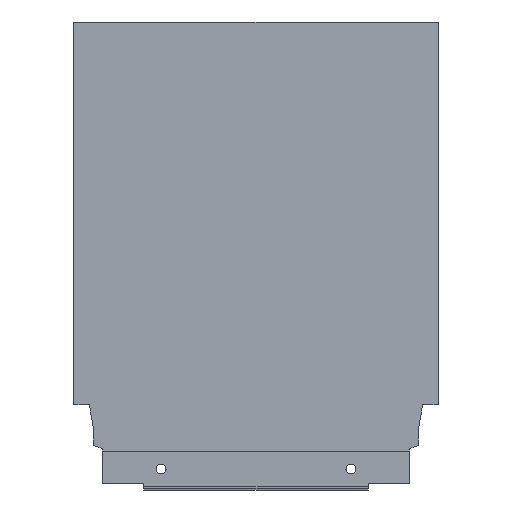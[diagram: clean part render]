
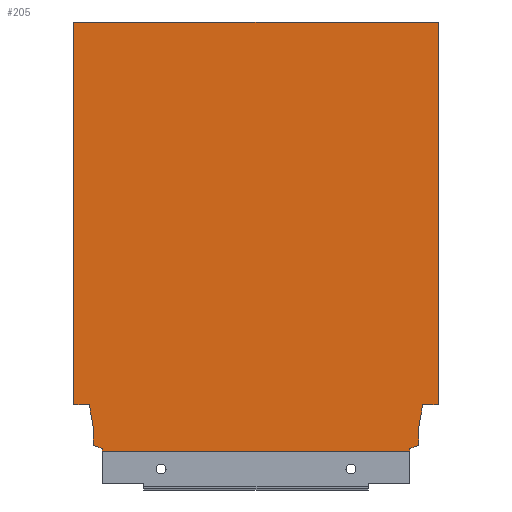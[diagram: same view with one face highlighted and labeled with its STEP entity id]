
A CAD part, top view. The second image highlights one B-rep face of the part: STEP entity #205.
In plain terms, the highlighted planar face has unit normal (0, 0, 1).
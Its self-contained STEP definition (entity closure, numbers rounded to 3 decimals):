
#14 = AXIS2_PLACEMENT_3D ( 'NONE', #1022, #1028, #1029 ) ;
#72 = EDGE_CURVE ( 'NONE', #1234, #1239, #552, .T. ) ;
#74 = EDGE_CURVE ( 'NONE', #1100, #1279, #536, .T. ) ;
#95 = EDGE_CURVE ( 'NONE', #1218, #1270, #528, .T. ) ;
#139 = EDGE_CURVE ( 'NONE', #1218, #1264, #1425, .T. ) ;
#151 = EDGE_CURVE ( 'NONE', #1246, #1184, #1330, .T. ) ;
#154 = EDGE_CURVE ( 'NONE', #1265, #1246, #1353, .T. ) ;
#162 = EDGE_CURVE ( 'NONE', #1248, #1265, #1348, .T. ) ;
#165 = EDGE_CURVE ( 'NONE', #1270, #1248, #1400, .T. ) ;
#166 = EDGE_CURVE ( 'NONE', #1100, #1184, #1383, .T. ) ;
#167 = EDGE_CURVE ( 'NONE', #1239, #1264, #1374, .T. ) ;
#168 = EDGE_CURVE ( 'NONE', #1243, #1234, #1370, .T. ) ;
#169 = EDGE_CURVE ( 'NONE', #1263, #1243, #1339, .T. ) ;
#170 = EDGE_CURVE ( 'NONE', #1279, #1166, #1395, .T. ) ;
#171 = EDGE_CURVE ( 'NONE', #1166, #1263, #1331, .T. ) ;
#205 = ADVANCED_FACE ( 'NONE', ( #1364 ), #1023, .T. ) ;
#233 = CARTESIAN_POINT ( 'NONE',  ( -167., 196.7, 7.5 ) ) ;
#247 = CARTESIAN_POINT ( 'NONE',  ( 0., 21.2, 7.5 ) ) ;
#280 = CARTESIAN_POINT ( 'NONE',  ( -167., 21.2, 7.5 ) ) ;
#292 = CARTESIAN_POINT ( 'NONE',  ( -158.1, 10.765, 7.5 ) ) ;
#303 = CARTESIAN_POINT ( 'NONE',  ( -7.06, 21.2, 7.5 ) ) ;
#308 = CARTESIAN_POINT ( 'NONE',  ( -8.9, 2.64, 7.5 ) ) ;
#318 = CARTESIAN_POINT ( 'NONE',  ( -153.996, 0., 7.5 ) ) ;
#320 = CARTESIAN_POINT ( 'NONE',  ( -8.9, 10.765, 7.5 ) ) ;
#330 = CARTESIAN_POINT ( 'NONE',  ( 0., 196.7, 7.5 ) ) ;
#336 = CARTESIAN_POINT ( 'NONE',  ( -159.94, 21.2, 7.5 ) ) ;
#349 = CARTESIAN_POINT ( 'NONE',  ( -13.004, 1.146, 7.5 ) ) ;
#365 = CARTESIAN_POINT ( 'NONE',  ( -158.1, 2.64, 7.5 ) ) ;
#370 = CARTESIAN_POINT ( 'NONE',  ( -153.996, 1.146, 7.5 ) ) ;
#372 = CARTESIAN_POINT ( 'NONE',  ( -13.004, 0., 7.5 ) ) ;
#444 = ORIENTED_EDGE ( 'NONE', *, *, #95, .F. ) ;
#449 = ORIENTED_EDGE ( 'NONE', *, *, #162, .F. ) ;
#451 = ORIENTED_EDGE ( 'NONE', *, *, #154, .F. ) ;
#462 = ORIENTED_EDGE ( 'NONE', *, *, #169, .F. ) ;
#463 = ORIENTED_EDGE ( 'NONE', *, *, #171, .F. ) ;
#464 = ORIENTED_EDGE ( 'NONE', *, *, #151, .F. ) ;
#465 = ORIENTED_EDGE ( 'NONE', *, *, #170, .F. ) ;
#467 = ORIENTED_EDGE ( 'NONE', *, *, #165, .F. ) ;
#484 = ORIENTED_EDGE ( 'NONE', *, *, #74, .F. ) ;
#528 = LINE ( 'NONE', #864, #1298 ) ;
#536 = LINE ( 'NONE', #1137, #540 ) ;
#540 = VECTOR ( 'NONE', #1138, 1000. ) ;
#544 = VECTOR ( 'NONE', #1134, 1000. ) ;
#548 = ORIENTED_EDGE ( 'NONE', *, *, #139, .T. ) ;
#552 = LINE ( 'NONE', #1119, #544 ) ;
#567 = ORIENTED_EDGE ( 'NONE', *, *, #167, .F. ) ;
#582 = ORIENTED_EDGE ( 'NONE', *, *, #168, .F. ) ;
#742 = ORIENTED_EDGE ( 'NONE', *, *, #166, .T. ) ;
#771 = EDGE_LOOP ( 'NONE', ( #742, #464, #451, #449, #467, #444, #548, #567, #813, #582, #462, #463, #465, #484 ) ) ;
#813 = ORIENTED_EDGE ( 'NONE', *, *, #72, .F. ) ;
#864 = CARTESIAN_POINT ( 'NONE',  ( -153.996, 1.146, 7.5 ) ) ;
#885 = CARTESIAN_POINT ( 'NONE',  ( -167., 0., 7.5 ) ) ;
#886 = DIRECTION ( 'NONE',  ( 1., 0., 0. ) ) ;
#913 = CARTESIAN_POINT ( 'NONE',  ( -172., 21.2, 7.5 ) ) ;
#914 = DIRECTION ( 'NONE',  ( -1., 0., 0. ) ) ;
#925 = CARTESIAN_POINT ( 'NONE',  ( -158.1, 10.765, 7.5 ) ) ;
#926 = DIRECTION ( 'NONE',  ( 0., 1., 0. ) ) ;
#951 = CARTESIAN_POINT ( 'NONE',  ( 0., 21.2, 7.5 ) ) ;
#952 = DIRECTION ( 'NONE',  ( -1., 0., 0. ) ) ;
#954 = CARTESIAN_POINT ( 'NONE',  ( -7.06, 21.2, 7.5 ) ) ;
#955 = DIRECTION ( 'NONE',  ( -0.174, -0.985, 0. ) ) ;
#956 = CARTESIAN_POINT ( 'NONE',  ( 0., 0., 7.5 ) ) ;
#957 = DIRECTION ( 'NONE',  ( 0., -1., 0. ) ) ;
#958 = DIRECTION ( 'NONE',  ( 0., -1., 0. ) ) ;
#959 = CARTESIAN_POINT ( 'NONE',  ( -8.9, 10.765, 7.5 ) ) ;
#960 = DIRECTION ( 'NONE',  ( 0., -1., 0. ) ) ;
#961 = CARTESIAN_POINT ( 'NONE',  ( -167., 0., 7.5 ) ) ;
#962 = DIRECTION ( 'NONE',  ( 0., -1., 0. ) ) ;
#963 = CARTESIAN_POINT ( 'NONE',  ( -13.004, 1.146, 7.5 ) ) ;
#964 = DIRECTION ( 'NONE',  ( -0.94, 0.342, 0. ) ) ;
#965 = CARTESIAN_POINT ( 'NONE',  ( -158.1, 2.64, 7.5 ) ) ;
#1022 = CARTESIAN_POINT ( 'NONE',  ( -167., 0., 7.5 ) ) ;
#1023 = PLANE ( 'NONE',  #14 ) ;
#1028 = DIRECTION ( 'NONE',  ( 0., 0., 1. ) ) ;
#1029 = DIRECTION ( 'NONE',  ( 1., 0., 0. ) ) ;
#1044 = DIRECTION ( 'NONE',  ( -0.174, 0.985, 0. ) ) ;
#1051 = DIRECTION ( 'NONE',  ( 0., 1., 0. ) ) ;
#1100 = VERTEX_POINT ( 'NONE', #233 ) ;
#1117 = CARTESIAN_POINT ( 'NONE',  ( -159.94, 21.2, 7.5 ) ) ;
#1119 = CARTESIAN_POINT ( 'NONE',  ( -8.9, 2.64, 7.5 ) ) ;
#1134 = DIRECTION ( 'NONE',  ( -0.94, -0.342, 0. ) ) ;
#1137 = CARTESIAN_POINT ( 'NONE',  ( -167., 196.7, 7.5 ) ) ;
#1138 = DIRECTION ( 'NONE',  ( 1., 0., 0. ) ) ;
#1166 = VERTEX_POINT ( 'NONE', #247 ) ;
#1184 = VERTEX_POINT ( 'NONE', #280 ) ;
#1218 = VERTEX_POINT ( 'NONE', #318 ) ;
#1234 = VERTEX_POINT ( 'NONE', #308 ) ;
#1239 = VERTEX_POINT ( 'NONE', #349 ) ;
#1243 = VERTEX_POINT ( 'NONE', #320 ) ;
#1246 = VERTEX_POINT ( 'NONE', #336 ) ;
#1248 = VERTEX_POINT ( 'NONE', #365 ) ;
#1263 = VERTEX_POINT ( 'NONE', #303 ) ;
#1264 = VERTEX_POINT ( 'NONE', #372 ) ;
#1265 = VERTEX_POINT ( 'NONE', #292 ) ;
#1270 = VERTEX_POINT ( 'NONE', #370 ) ;
#1279 = VERTEX_POINT ( 'NONE', #330 ) ;
#1295 = VECTOR ( 'NONE', #952, 1000. ) ;
#1298 = VECTOR ( 'NONE', #1051, 1000. ) ;
#1330 = LINE ( 'NONE', #913, #1377 ) ;
#1331 = LINE ( 'NONE', #951, #1295 ) ;
#1332 = VECTOR ( 'NONE', #957, 1000. ) ;
#1339 = LINE ( 'NONE', #954, #1394 ) ;
#1348 = LINE ( 'NONE', #925, #1393 ) ;
#1353 = LINE ( 'NONE', #1117, #1422 ) ;
#1364 = FACE_OUTER_BOUND ( 'NONE', #771, .T. ) ;
#1367 = VECTOR ( 'NONE', #960, 1000. ) ;
#1370 = LINE ( 'NONE', #959, #1367 ) ;
#1373 = VECTOR ( 'NONE', #958, 1000. ) ;
#1374 = LINE ( 'NONE', #963, #1373 ) ;
#1377 = VECTOR ( 'NONE', #914, 1000. ) ;
#1382 = VECTOR ( 'NONE', #962, 1000. ) ;
#1383 = LINE ( 'NONE', #961, #1382 ) ;
#1393 = VECTOR ( 'NONE', #926, 1000. ) ;
#1394 = VECTOR ( 'NONE', #955, 1000. ) ;
#1395 = LINE ( 'NONE', #956, #1332 ) ;
#1397 = VECTOR ( 'NONE', #964, 1000. ) ;
#1400 = LINE ( 'NONE', #965, #1397 ) ;
#1422 = VECTOR ( 'NONE', #1044, 1000. ) ;
#1425 = LINE ( 'NONE', #885, #1471 ) ;
#1471 = VECTOR ( 'NONE', #886, 1000. ) ;
